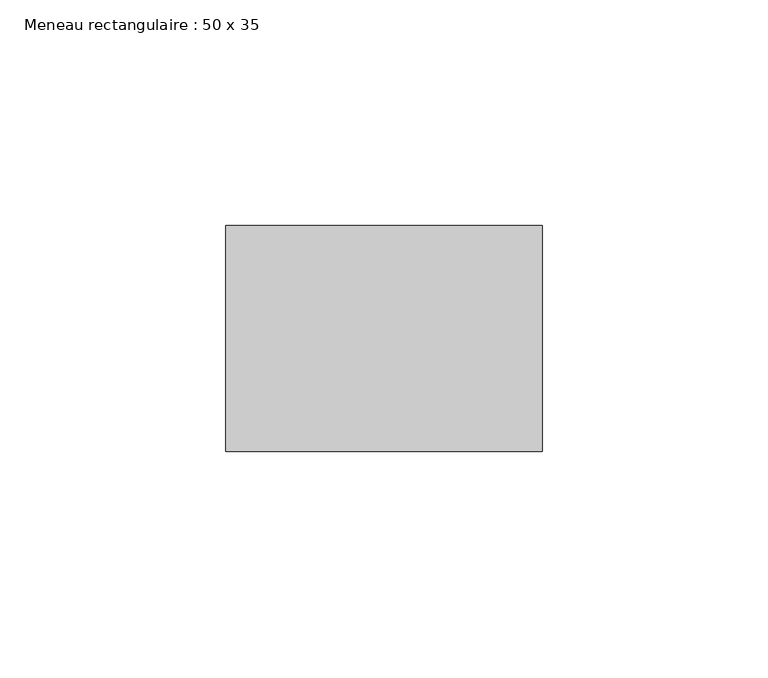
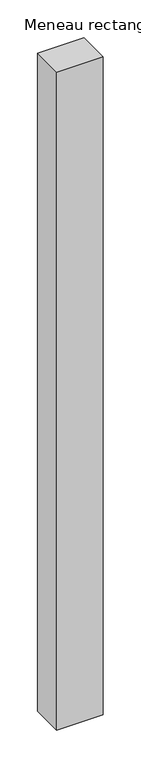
"""IFC4 building model written with IfcOpenShell, lengths in millimetres: member geometry, Meneau rectangulaire : 50 x 35."""

from ifc_helpers import new_model, si_unit, frame, origin, place, context, project, spatial, polyline, outline, extrude, source, transform, mapped, element, save


def meneau_rectangulaire_50_x_35_50831820(model_context):
    return source(origin(), model_context, "Body", "SweptSolid", [
        extrude(outline(polyline([(35.0, 0.0), (35.0, -50.0), (-35.0, -50.0), (-35.0, 0.0), (35.0, 0.0)])), frame((0.0, 0.0, -1057.3515477), z_axis=(0.0, 0.0, 1.0), x_axis=(1.0, 0.0, 0.0)), (0.0, 0.0, 1.0), 1057.3515477),
    ])


if __name__ == "__main__":
    model = new_model("IFC4")
    model_context = context("Model", 3, world=origin())
    ifc_project = project(units=[si_unit("LENGTHUNIT", "METRE", prefix="MILLI")], contexts=[model_context])
    site = spatial("IfcSite", under=ifc_project)
    building = spatial("IfcBuilding", under=site)
    placement = place(None, origin())
    meneau_rectangulaire_50_x_35_shape = meneau_rectangulaire_50_x_35_50831820(model_context)
    element("IfcMember", 1, ObjectType="Meneau rectangulaire : 50 x 35", at=placement, inside=building, context=model_context, shape_type="MappedRepresentation", body=[
        mapped(meneau_rectangulaire_50_x_35_shape, transform((0.0, 0.0, 0.0), x_axis=(1.0, 0.0, 0.0), y_axis=(0.0, 1.0, 0.0), z_axis=(0.0, 0.0, 1.0))),
    ])
    save(model, "model.ifc")
